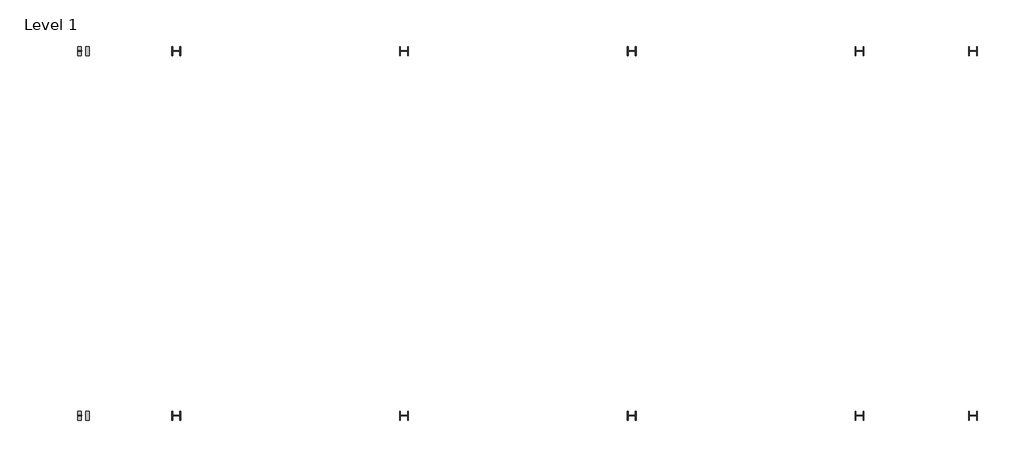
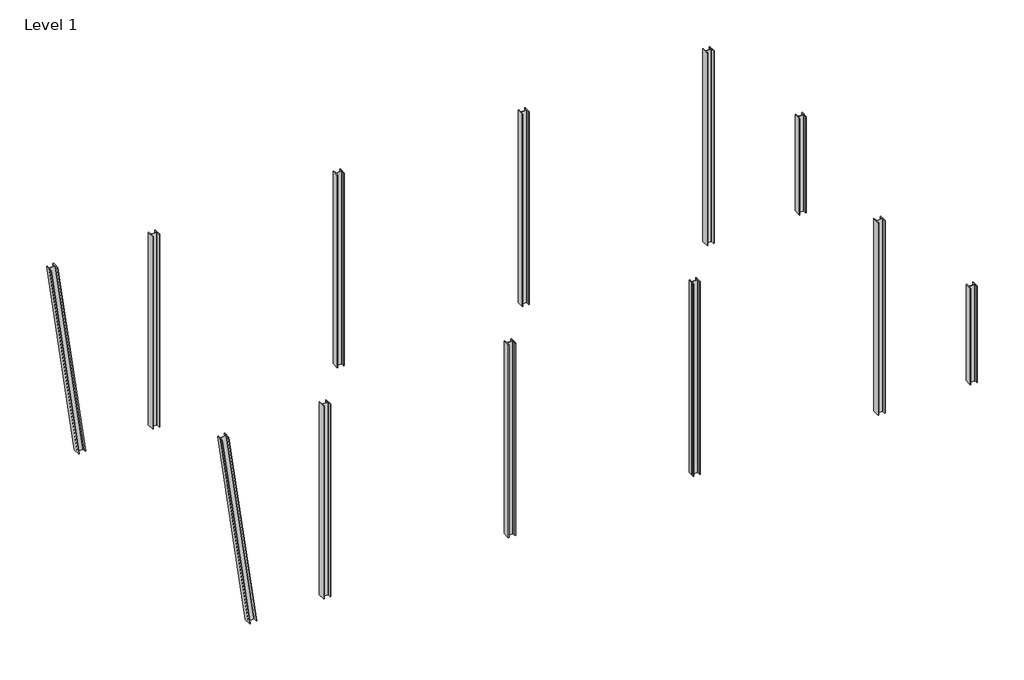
# One storey: 12 columns.
"""IFC4 building model written with IfcOpenShell, lengths in millimetres."""

from ifc_helpers import new_model, si_unit, point, frame, frame_2d, origin, origin_with_axes, place, context, project, spatial, polyline, circle_curve, trimmed, segment, composite_curve, outline, extrude, element, save

model = new_model("IFC4")

# Units and contexts
model_context = context("Model", 3, world=origin())
ifc_project = project(units=[si_unit("LENGTHUNIT", "METRE", prefix="MILLI")], contexts=[model_context])

# Site, building, storey
site = spatial("IfcSite", under=ifc_project)
building = spatial("IfcBuilding", under=site)
storey = spatial("IfcBuildingStorey", under=building, Name="Level 1", Elevation=0.0)

# Columns
placement = place(None, origin())
element("IfcColumn", 1, ObjectType="W Shapes-Column : W14X159", at=placement, inside=storey, context=model_context, shape_type="SweptSolid", body=[
    extrude(outline(composite_curve([segment(polyline([(396.24, 0.0), (396.2400001, -30.226), (222.8850001, -30.226)]), True, "CONTINUOUS"), segment(trimmed(circle_curve(frame_2d((222.885, -45.466)), 15.24), [point((222.8850001, -30.226))], [point((207.645, -45.466))], True, "CARTESIAN"), True, "CONTINUOUS"), segment(polyline([(207.645, -45.466), (207.645, -335.5340001)]), True, "CONTINUOUS"), segment(trimmed(circle_curve(frame_2d((222.885, -335.534)), 15.24), [point((207.645, -335.5340001))], [point((222.885, -350.774))], True, "CARTESIAN"), True, "CONTINUOUS"), segment(polyline([(222.885, -350.774), (396.24, -350.774), (396.24, -381.0), (0.0, -381.0), (0.0, -350.774), (173.355, -350.774)]), True, "CONTINUOUS"), segment(trimmed(circle_curve(frame_2d((173.355, -335.5340001)), 15.24), [point((173.355, -350.774))], [point((188.595, -335.534))], True, "CARTESIAN"), True, "CONTINUOUS"), segment(polyline([(188.595, -335.534), (188.595, -45.466)]), True, "CONTINUOUS"), segment(trimmed(circle_curve(frame_2d((173.355, -45.466)), 15.24), [point((188.595, -45.466))], [point((173.3550001, -30.226))], True, "CARTESIAN"), True, "CONTINUOUS"), segment(polyline([(173.3550001, -30.226), (0.0, -30.226), (0.0, 0.0), (396.24, 0.0)]), True, "CONTINUOUS")], self_intersect=False)), frame((2446.2482951, 1166.8786005, -25.7388688), z_axis=(-0.13511320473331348, 0.0, 0.990830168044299), x_axis=(-7.279044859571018e-06, 0.9999999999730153, -9.925970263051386e-07)), (0.0, 0.0, 1.0), 11101.8016556),
])
element("IfcColumn", 2, ObjectType="W Shapes-Column : W14X159", at=placement, inside=storey, context=model_context, shape_type="SweptSolid", body=[
    extrude(outline(composite_curve([segment(polyline([(6444.4992723, 1563.1193003), (6474.7252723, 1563.1194113), (6474.725909, 1389.7644113)]), True, "CONTINUOUS"), segment(trimmed(circle_curve(frame_2d((6489.965909, 1389.7644673)), 15.24), [point((6474.725909, 1389.7644113))], [point((6489.965965, 1374.5244673))], True, "CARTESIAN"), True, "CONTINUOUS"), segment(polyline([(6489.965965, 1374.5244673), (6780.033965, 1374.5255327)]), True, "CONTINUOUS"), segment(trimmed(circle_curve(frame_2d((6780.033909, 1389.7655327)), 15.24), [point((6780.033965, 1374.5255327))], [point((6795.273909, 1389.7655887))], True, "CARTESIAN"), True, "CONTINUOUS"), segment(polyline([(6795.273909, 1389.7655887), (6795.2732723, 1563.1205887), (6825.4992723, 1563.1206997), (6825.5007277, 1166.8806997), (6795.2747277, 1166.8805887), (6795.274091, 1340.2355887)]), True, "CONTINUOUS"), segment(trimmed(circle_curve(frame_2d((6780.034091, 1340.2355327)), 15.24), [point((6795.274091, 1340.2355887))], [point((6780.034035, 1355.4755327))], True, "CARTESIAN"), True, "CONTINUOUS"), segment(polyline([(6780.034035, 1355.4755327), (6489.966035, 1355.4744673)]), True, "CONTINUOUS"), segment(trimmed(circle_curve(frame_2d((6489.966091, 1340.2344673)), 15.24), [point((6489.966035, 1355.4744673))], [point((6474.726091, 1340.2344113))], True, "CARTESIAN"), True, "CONTINUOUS"), segment(polyline([(6474.726091, 1340.2344113), (6474.7267277, 1166.8794113), (6444.5007277, 1166.8793003), (6444.4992723, 1563.1193003)]), True, "CONTINUOUS")], self_intersect=False)), origin_with_axes(), (0.0, 0.0, 1.0), 11000.0),
])
element("IfcColumn", 3, ObjectType="W Shapes-Column : W14X159", at=placement, inside=storey, context=model_context, shape_type="SweptSolid", body=[
    extrude(outline(composite_curve([segment(polyline([(16426.6992723, -14436.8806997), (16456.9252723, -14436.8805887), (16456.925909, -14610.2355887)]), True, "CONTINUOUS"), segment(trimmed(circle_curve(frame_2d((16472.165909, -14610.2355327)), 15.24), [point((16456.925909, -14610.2355887))], [point((16472.165965, -14625.4755327))], True, "CARTESIAN"), True, "CONTINUOUS"), segment(polyline([(16472.165965, -14625.4755327), (16762.233965, -14625.4744673)]), True, "CONTINUOUS"), segment(trimmed(circle_curve(frame_2d((16762.233909, -14610.2344673)), 15.24), [point((16762.233965, -14625.4744673))], [point((16777.473909, -14610.2344113))], True, "CARTESIAN"), True, "CONTINUOUS"), segment(polyline([(16777.473909, -14610.2344113), (16777.4732723, -14436.8794113), (16807.6992723, -14436.8793003), (16807.7007277, -14833.1193003), (16777.4747277, -14833.1194113), (16777.474091, -14659.7644113)]), True, "CONTINUOUS"), segment(trimmed(circle_curve(frame_2d((16762.234091, -14659.7644673)), 15.24), [point((16777.474091, -14659.7644113))], [point((16762.234035, -14644.5244673))], True, "CARTESIAN"), True, "CONTINUOUS"), segment(polyline([(16762.234035, -14644.5244673), (16472.166035, -14644.5255327)]), True, "CONTINUOUS"), segment(trimmed(circle_curve(frame_2d((16472.166091, -14659.7655327)), 15.24), [point((16472.166035, -14644.5255327))], [point((16456.926091, -14659.7655887))], True, "CARTESIAN"), True, "CONTINUOUS"), segment(polyline([(16456.926091, -14659.7655887), (16456.9267277, -14833.1205887), (16426.7007277, -14833.1206997), (16426.6992723, -14436.8806997)]), True, "CONTINUOUS")], self_intersect=False)), origin_with_axes(), (0.0, 0.0, 1.0), 11000.0),
])
element("IfcColumn", 4, ObjectType="W Shapes-Column : W14X159", at=placement, inside=storey, context=model_context, shape_type="SweptSolid", body=[
    extrude(outline(composite_curve([segment(polyline([(16426.6992723, 1563.1193003), (16456.9252723, 1563.1194113), (16456.925909, 1389.7644113)]), True, "CONTINUOUS"), segment(trimmed(circle_curve(frame_2d((16472.165909, 1389.7644673)), 15.24), [point((16456.925909, 1389.7644113))], [point((16472.165965, 1374.5244673))], True, "CARTESIAN"), True, "CONTINUOUS"), segment(polyline([(16472.165965, 1374.5244673), (16762.233965, 1374.5255327)]), True, "CONTINUOUS"), segment(trimmed(circle_curve(frame_2d((16762.233909, 1389.7655327)), 15.24), [point((16762.233965, 1374.5255327))], [point((16777.473909, 1389.7655887))], True, "CARTESIAN"), True, "CONTINUOUS"), segment(polyline([(16777.473909, 1389.7655887), (16777.4732723, 1563.1205887), (16807.6992723, 1563.1206997), (16807.7007277, 1166.8806997), (16777.4747277, 1166.8805887), (16777.474091, 1340.2355887)]), True, "CONTINUOUS"), segment(trimmed(circle_curve(frame_2d((16762.234091, 1340.2355327)), 15.24), [point((16777.474091, 1340.2355887))], [point((16762.234035, 1355.4755327))], True, "CARTESIAN"), True, "CONTINUOUS"), segment(polyline([(16762.234035, 1355.4755327), (16472.166035, 1355.4744673)]), True, "CONTINUOUS"), segment(trimmed(circle_curve(frame_2d((16472.166091, 1340.2344673)), 15.24), [point((16472.166035, 1355.4744673))], [point((16456.926091, 1340.2344113))], True, "CARTESIAN"), True, "CONTINUOUS"), segment(polyline([(16456.926091, 1340.2344113), (16456.9267277, 1166.8794113), (16426.7007277, 1166.8793003), (16426.6992723, 1563.1193003)]), True, "CONTINUOUS")], self_intersect=False)), origin_with_axes(), (0.0, 0.0, 1.0), 11000.0),
])
element("IfcColumn", 5, ObjectType="W Shapes-Column : W14X159", at=placement, inside=storey, context=model_context, shape_type="SweptSolid", body=[
    extrude(outline(composite_curve([segment(polyline([(26408.8992723, -14436.8806997), (26439.1252723, -14436.8805887), (26439.125909, -14610.2355887)]), True, "CONTINUOUS"), segment(trimmed(circle_curve(frame_2d((26454.365909, -14610.2355327)), 15.24), [point((26439.125909, -14610.2355887))], [point((26454.365965, -14625.4755327))], True, "CARTESIAN"), True, "CONTINUOUS"), segment(polyline([(26454.365965, -14625.4755327), (26744.433965, -14625.4744673)]), True, "CONTINUOUS"), segment(trimmed(circle_curve(frame_2d((26744.433909, -14610.2344673)), 15.24), [point((26744.433965, -14625.4744673))], [point((26759.673909, -14610.2344113))], True, "CARTESIAN"), True, "CONTINUOUS"), segment(polyline([(26759.673909, -14610.2344113), (26759.6732723, -14436.8794113), (26789.8992723, -14436.8793003), (26789.9007277, -14833.1193003), (26759.6747277, -14833.1194113), (26759.674091, -14659.7644113)]), True, "CONTINUOUS"), segment(trimmed(circle_curve(frame_2d((26744.434091, -14659.7644673)), 15.24), [point((26759.674091, -14659.7644113))], [point((26744.434035, -14644.5244673))], True, "CARTESIAN"), True, "CONTINUOUS"), segment(polyline([(26744.434035, -14644.5244673), (26454.366035, -14644.5255327)]), True, "CONTINUOUS"), segment(trimmed(circle_curve(frame_2d((26454.366091, -14659.7655327)), 15.24), [point((26454.366035, -14644.5255327))], [point((26439.126091, -14659.7655887))], True, "CARTESIAN"), True, "CONTINUOUS"), segment(polyline([(26439.126091, -14659.7655887), (26439.1267277, -14833.1205887), (26408.9007277, -14833.1206997), (26408.8992723, -14436.8806997)]), True, "CONTINUOUS")], self_intersect=False)), origin_with_axes(), (0.0, 0.0, 1.0), 11000.0),
])
element("IfcColumn", 6, ObjectType="W Shapes-Column : W14X159", at=placement, inside=storey, context=model_context, shape_type="SweptSolid", body=[
    extrude(outline(composite_curve([segment(polyline([(26408.8992723, 1563.1193003), (26439.1252723, 1563.1194113), (26439.125909, 1389.7644113)]), True, "CONTINUOUS"), segment(trimmed(circle_curve(frame_2d((26454.365909, 1389.7644673)), 15.24), [point((26439.125909, 1389.7644113))], [point((26454.365965, 1374.5244673))], True, "CARTESIAN"), True, "CONTINUOUS"), segment(polyline([(26454.365965, 1374.5244673), (26744.433965, 1374.5255327)]), True, "CONTINUOUS"), segment(trimmed(circle_curve(frame_2d((26744.433909, 1389.7655327)), 15.24), [point((26744.433965, 1374.5255327))], [point((26759.673909, 1389.7655887))], True, "CARTESIAN"), True, "CONTINUOUS"), segment(polyline([(26759.673909, 1389.7655887), (26759.6732723, 1563.1205887), (26789.8992723, 1563.1206997), (26789.9007277, 1166.8806997), (26759.6747277, 1166.8805887), (26759.674091, 1340.2355887)]), True, "CONTINUOUS"), segment(trimmed(circle_curve(frame_2d((26744.434091, 1340.2355327)), 15.24), [point((26759.674091, 1340.2355887))], [point((26744.434035, 1355.4755327))], True, "CARTESIAN"), True, "CONTINUOUS"), segment(polyline([(26744.434035, 1355.4755327), (26454.366035, 1355.4744673)]), True, "CONTINUOUS"), segment(trimmed(circle_curve(frame_2d((26454.366091, 1340.2344673)), 15.24), [point((26454.366035, 1355.4744673))], [point((26439.126091, 1340.2344113))], True, "CARTESIAN"), True, "CONTINUOUS"), segment(polyline([(26439.126091, 1340.2344113), (26439.1267277, 1166.8794113), (26408.9007277, 1166.8793003), (26408.8992723, 1563.1193003)]), True, "CONTINUOUS")], self_intersect=False)), origin_with_axes(), (0.0, 0.0, 1.0), 11000.0),
])
element("IfcColumn", 7, ObjectType="W Shapes-Column : W14X159", at=placement, inside=storey, context=model_context, shape_type="SweptSolid", body=[
    extrude(outline(composite_curve([segment(polyline([(36391.0992723, -14436.8806997), (36421.3252723, -14436.8805887), (36421.325909, -14610.2355887)]), True, "CONTINUOUS"), segment(trimmed(circle_curve(frame_2d((36436.565909, -14610.2355327)), 15.24), [point((36421.325909, -14610.2355887))], [point((36436.565965, -14625.4755327))], True, "CARTESIAN"), True, "CONTINUOUS"), segment(polyline([(36436.565965, -14625.4755327), (36726.633965, -14625.4744673)]), True, "CONTINUOUS"), segment(trimmed(circle_curve(frame_2d((36726.633909, -14610.2344673)), 15.24), [point((36726.633965, -14625.4744673))], [point((36741.873909, -14610.2344113))], True, "CARTESIAN"), True, "CONTINUOUS"), segment(polyline([(36741.873909, -14610.2344113), (36741.8732723, -14436.8794113), (36772.0992723, -14436.8793003), (36772.1007277, -14833.1193003), (36741.8747277, -14833.1194113), (36741.874091, -14659.7644113)]), True, "CONTINUOUS"), segment(trimmed(circle_curve(frame_2d((36726.634091, -14659.7644673)), 15.24), [point((36741.874091, -14659.7644113))], [point((36726.634035, -14644.5244673))], True, "CARTESIAN"), True, "CONTINUOUS"), segment(polyline([(36726.634035, -14644.5244673), (36436.566035, -14644.5255327)]), True, "CONTINUOUS"), segment(trimmed(circle_curve(frame_2d((36436.566091, -14659.7655327)), 15.24), [point((36436.566035, -14644.5255327))], [point((36421.326091, -14659.7655887))], True, "CARTESIAN"), True, "CONTINUOUS"), segment(polyline([(36421.326091, -14659.7655887), (36421.3267277, -14833.1205887), (36391.1007277, -14833.1206997), (36391.0992723, -14436.8806997)]), True, "CONTINUOUS")], self_intersect=False)), origin_with_axes(), (0.0, 0.0, 1.0), 11000.0),
])
element("IfcColumn", 8, ObjectType="W Shapes-Column : W14X159", at=placement, inside=storey, context=model_context, shape_type="SweptSolid", body=[
    extrude(outline(composite_curve([segment(polyline([(36391.0992723, 1563.1193003), (36421.3252723, 1563.1194113), (36421.325909, 1389.7644113)]), True, "CONTINUOUS"), segment(trimmed(circle_curve(frame_2d((36436.565909, 1389.7644673)), 15.24), [point((36421.325909, 1389.7644113))], [point((36436.565965, 1374.5244673))], True, "CARTESIAN"), True, "CONTINUOUS"), segment(polyline([(36436.565965, 1374.5244673), (36726.633965, 1374.5255327)]), True, "CONTINUOUS"), segment(trimmed(circle_curve(frame_2d((36726.633909, 1389.7655327)), 15.24), [point((36726.633965, 1374.5255327))], [point((36741.873909, 1389.7655887))], True, "CARTESIAN"), True, "CONTINUOUS"), segment(polyline([(36741.873909, 1389.7655887), (36741.8732723, 1563.1205887), (36772.0992723, 1563.1206997), (36772.1007277, 1166.8806997), (36741.8747277, 1166.8805887), (36741.874091, 1340.2355887)]), True, "CONTINUOUS"), segment(trimmed(circle_curve(frame_2d((36726.634091, 1340.2355327)), 15.24), [point((36741.874091, 1340.2355887))], [point((36726.634035, 1355.4755327))], True, "CARTESIAN"), True, "CONTINUOUS"), segment(polyline([(36726.634035, 1355.4755327), (36436.566035, 1355.4744673)]), True, "CONTINUOUS"), segment(trimmed(circle_curve(frame_2d((36436.566091, 1340.2344673)), 15.24), [point((36436.566035, 1355.4744673))], [point((36421.326091, 1340.2344113))], True, "CARTESIAN"), True, "CONTINUOUS"), segment(polyline([(36421.326091, 1340.2344113), (36421.3267277, 1166.8794113), (36391.1007277, 1166.8793003), (36391.0992723, 1563.1193003)]), True, "CONTINUOUS")], self_intersect=False)), origin_with_axes(), (0.0, 0.0, 1.0), 11000.0),
])
element("IfcColumn", 9, ObjectType="W Shapes-Column : W14X159", at=placement, inside=storey, context=model_context, shape_type="SweptSolid", body=[
    extrude(outline(composite_curve([segment(polyline([(41373.2992723, -14436.8806997), (41403.5252723, -14436.8805887), (41403.525909, -14610.2355887)]), True, "CONTINUOUS"), segment(trimmed(circle_curve(frame_2d((41418.765909, -14610.2355327)), 15.24), [point((41403.525909, -14610.2355887))], [point((41418.765965, -14625.4755327))], True, "CARTESIAN"), True, "CONTINUOUS"), segment(polyline([(41418.765965, -14625.4755327), (41708.833965, -14625.4744673)]), True, "CONTINUOUS"), segment(trimmed(circle_curve(frame_2d((41708.833909, -14610.2344673)), 15.24), [point((41708.833965, -14625.4744673))], [point((41724.073909, -14610.2344113))], True, "CARTESIAN"), True, "CONTINUOUS"), segment(polyline([(41724.073909, -14610.2344113), (41724.0732723, -14436.8794113), (41754.2992723, -14436.8793003), (41754.3007277, -14833.1193003), (41724.0747277, -14833.1194113), (41724.074091, -14659.7644113)]), True, "CONTINUOUS"), segment(trimmed(circle_curve(frame_2d((41708.834091, -14659.7644673)), 15.24), [point((41724.074091, -14659.7644113))], [point((41708.834035, -14644.5244673))], True, "CARTESIAN"), True, "CONTINUOUS"), segment(polyline([(41708.834035, -14644.5244673), (41418.766035, -14644.5255327)]), True, "CONTINUOUS"), segment(trimmed(circle_curve(frame_2d((41418.766091, -14659.7655327)), 15.24), [point((41418.766035, -14644.5255327))], [point((41403.526091, -14659.7655887))], True, "CARTESIAN"), True, "CONTINUOUS"), segment(polyline([(41403.526091, -14659.7655887), (41403.5267277, -14833.1205887), (41373.3007277, -14833.1206997), (41373.2992723, -14436.8806997)]), True, "CONTINUOUS")], self_intersect=False)), origin_with_axes(), (0.0, 0.0, 1.0), 5500.0),
])
element("IfcColumn", 10, ObjectType="W Shapes-Column : W14X159", at=placement, inside=storey, context=model_context, shape_type="SweptSolid", body=[
    extrude(outline(composite_curve([segment(polyline([(41373.2992723, 1563.1193003), (41403.5252723, 1563.1194113), (41403.525909, 1389.7644113)]), True, "CONTINUOUS"), segment(trimmed(circle_curve(frame_2d((41418.765909, 1389.7644673)), 15.24), [point((41403.525909, 1389.7644113))], [point((41418.765965, 1374.5244673))], True, "CARTESIAN"), True, "CONTINUOUS"), segment(polyline([(41418.765965, 1374.5244673), (41708.833965, 1374.5255327)]), True, "CONTINUOUS"), segment(trimmed(circle_curve(frame_2d((41708.833909, 1389.7655327)), 15.24), [point((41708.833965, 1374.5255327))], [point((41724.073909, 1389.7655887))], True, "CARTESIAN"), True, "CONTINUOUS"), segment(polyline([(41724.073909, 1389.7655887), (41724.0732723, 1563.1205887), (41754.2992723, 1563.1206997), (41754.3007277, 1166.8806997), (41724.0747277, 1166.8805887), (41724.074091, 1340.2355887)]), True, "CONTINUOUS"), segment(trimmed(circle_curve(frame_2d((41708.834091, 1340.2355327)), 15.24), [point((41724.074091, 1340.2355887))], [point((41708.834035, 1355.4755327))], True, "CARTESIAN"), True, "CONTINUOUS"), segment(polyline([(41708.834035, 1355.4755327), (41418.766035, 1355.4744673)]), True, "CONTINUOUS"), segment(trimmed(circle_curve(frame_2d((41418.766091, 1340.2344673)), 15.24), [point((41418.766035, 1355.4744673))], [point((41403.526091, 1340.2344113))], True, "CARTESIAN"), True, "CONTINUOUS"), segment(polyline([(41403.526091, 1340.2344113), (41403.5267277, 1166.8794113), (41373.3007277, 1166.8793003), (41373.2992723, 1563.1193003)]), True, "CONTINUOUS")], self_intersect=False)), origin_with_axes(), (0.0, 0.0, 1.0), 5500.0),
])
element("IfcColumn", 11, ObjectType="W Shapes-Column : W14X159", at=placement, inside=storey, context=model_context, shape_type="SweptSolid", body=[
    extrude(outline(composite_curve([segment(polyline([(396.24, 0.0), (396.2400001, -30.226), (222.8850001, -30.226)]), True, "CONTINUOUS"), segment(trimmed(circle_curve(frame_2d((222.885, -45.466)), 15.24), [point((222.8850001, -30.226))], [point((207.645, -45.466))], True, "CARTESIAN"), True, "CONTINUOUS"), segment(polyline([(207.645, -45.466), (207.645, -335.5340001)]), True, "CONTINUOUS"), segment(trimmed(circle_curve(frame_2d((222.885, -335.534)), 15.24), [point((207.645, -335.5340001))], [point((222.885, -350.774))], True, "CARTESIAN"), True, "CONTINUOUS"), segment(polyline([(222.885, -350.774), (396.24, -350.774), (396.24, -381.0), (0.0, -381.0), (0.0, -350.774), (173.355, -350.774)]), True, "CONTINUOUS"), segment(trimmed(circle_curve(frame_2d((173.355, -335.5340001)), 15.24), [point((173.355, -350.774))], [point((188.595, -335.534))], True, "CARTESIAN"), True, "CONTINUOUS"), segment(polyline([(188.595, -335.534), (188.595, -45.466)]), True, "CONTINUOUS"), segment(trimmed(circle_curve(frame_2d((173.355, -45.466)), 15.24), [point((188.595, -45.466))], [point((173.3550001, -30.226))], True, "CARTESIAN"), True, "CONTINUOUS"), segment(polyline([(173.3550001, -30.226), (0.0, -30.226), (0.0, 0.0), (396.24, 0.0)]), True, "CONTINUOUS")], self_intersect=False)), frame((2446.2482951, -14833.1213995, -25.7388688), z_axis=(-0.13511320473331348, 0.0, 0.990830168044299), x_axis=(-7.279044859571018e-06, 0.9999999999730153, -9.925970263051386e-07)), (0.0, 0.0, 1.0), 11101.8016556),
])
element("IfcColumn", 12, ObjectType="W Shapes-Column : W14X159", at=placement, inside=storey, context=model_context, shape_type="SweptSolid", body=[
    extrude(outline(composite_curve([segment(polyline([(6444.4992723, -14436.8806997), (6474.7252723, -14436.8805887), (6474.725909, -14610.2355887)]), True, "CONTINUOUS"), segment(trimmed(circle_curve(frame_2d((6489.965909, -14610.2355327)), 15.24), [point((6474.725909, -14610.2355887))], [point((6489.965965, -14625.4755327))], True, "CARTESIAN"), True, "CONTINUOUS"), segment(polyline([(6489.965965, -14625.4755327), (6780.033965, -14625.4744673)]), True, "CONTINUOUS"), segment(trimmed(circle_curve(frame_2d((6780.033909, -14610.2344673)), 15.24), [point((6780.033965, -14625.4744673))], [point((6795.273909, -14610.2344113))], True, "CARTESIAN"), True, "CONTINUOUS"), segment(polyline([(6795.273909, -14610.2344113), (6795.2732723, -14436.8794113), (6825.4992723, -14436.8793003), (6825.5007277, -14833.1193003), (6795.2747277, -14833.1194113), (6795.274091, -14659.7644113)]), True, "CONTINUOUS"), segment(trimmed(circle_curve(frame_2d((6780.034091, -14659.7644673)), 15.24), [point((6795.274091, -14659.7644113))], [point((6780.034035, -14644.5244673))], True, "CARTESIAN"), True, "CONTINUOUS"), segment(polyline([(6780.034035, -14644.5244673), (6489.966035, -14644.5255327)]), True, "CONTINUOUS"), segment(trimmed(circle_curve(frame_2d((6489.966091, -14659.7655327)), 15.24), [point((6489.966035, -14644.5255327))], [point((6474.726091, -14659.7655887))], True, "CARTESIAN"), True, "CONTINUOUS"), segment(polyline([(6474.726091, -14659.7655887), (6474.7267277, -14833.1205887), (6444.5007277, -14833.1206997), (6444.4992723, -14436.8806997)]), True, "CONTINUOUS")], self_intersect=False)), origin_with_axes(), (0.0, 0.0, 1.0), 11000.0),
])

save(model, "model.ifc")
